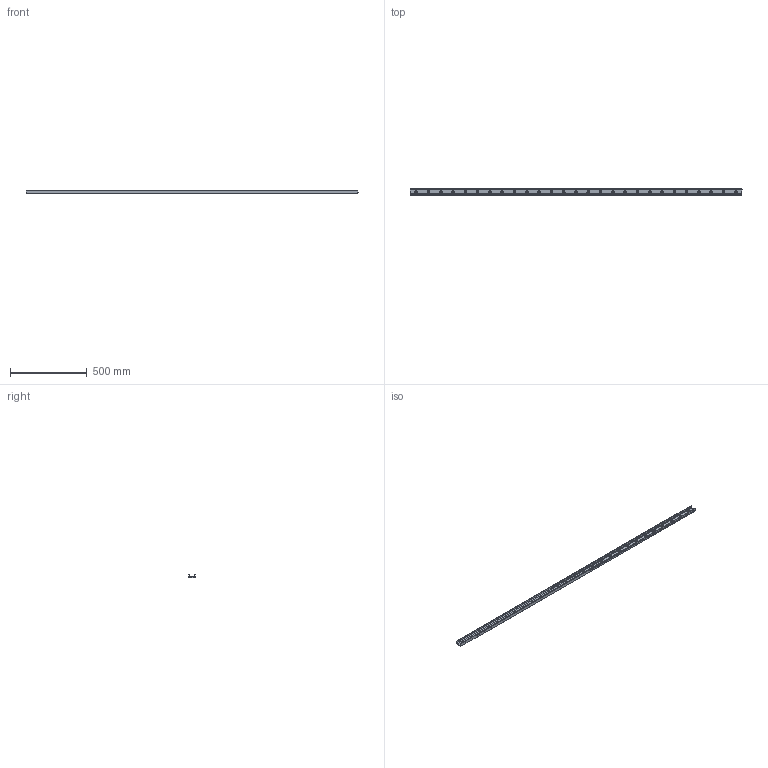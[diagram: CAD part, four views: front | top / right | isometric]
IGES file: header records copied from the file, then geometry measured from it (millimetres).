
Start section: SolidWorks IGES file using analytic representation for surfaces
Global section: file name: C:\Users\IanO\Desktop\43\L1943.ULV43_v2_20180121_IGES\L1943.ULV43-2160.igs; native system: SolidWorks 2017; preprocessor: SolidWorks 2017; author: IanO; date: 190121.090238; units: millimetre
Bounding box: 2160 x 43 x 21 mm (x, y, z)
Surface area: 335317.6 mm2 (no closed solid volume)
Topology: 0 solids, 0 shells, 134 faces, 2454 edges, 2454 vertices
Faces by surface type: revolution 121, bspline 13
